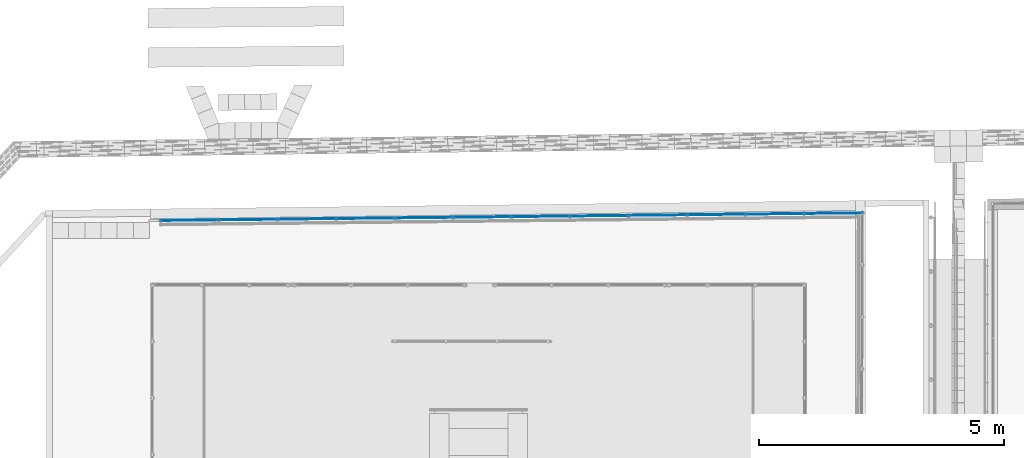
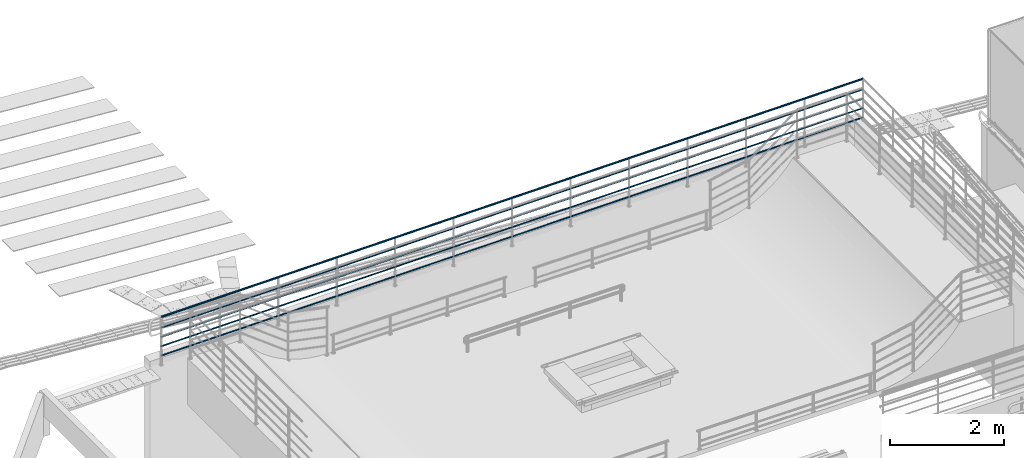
# One storey, part 50 of 237: 6 building element parts, 1 element without a shape of its own.
"""IFC2X3 building model written with IfcOpenShell, lengths in millimetres."""

from ifc_helpers import new_model, entity, si_unit, converted_unit, derived_unit, money_unit, direction, frame, origin_with_axes, place, context, subcontext, project, spatial, faceted_brep, material, type_object, element, aggregate, save


model = new_model("IFC2X3")

# Units and contexts
model_context = context("Model", 3, precision=0.01, world=origin_with_axes(), true_north=direction((0.0, 1.0)))
body_context = subcontext(model_context, "Body", "Model", "MODEL_VIEW")
ifc_project = project(units=[si_unit("LENGTHUNIT", "METRE", prefix="MILLI"), si_unit("AREAUNIT", "SQUARE_METRE"), si_unit("VOLUMEUNIT", "CUBIC_METRE"), converted_unit("PLANEANGLEUNIT", "DEGREE", entity("IfcPlaneAngleMeasure", 0.0174532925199), si_unit("PLANEANGLEUNIT", "RADIAN"), dimensions=[0, 0, 0, 0, 0, 0, 0]), money_unit("USD"), converted_unit("TIMEUNIT", "Year", entity("IfcTimeMeasure", 31556926.0), si_unit("TIMEUNIT", "SECOND"), dimensions=[0, 0, 1, 0, 0, 0, 0]), si_unit("MASSUNIT", "GRAM", prefix="KILO"), si_unit("THERMODYNAMICTEMPERATUREUNIT", "DEGREE_CELSIUS"), si_unit("LUMINOUSINTENSITYUNIT", "LUMEN"), si_unit("ENERGYUNIT", "JOULE", prefix="MEGA"), derived_unit("THERMALCONDUCTANCEUNIT", [(si_unit("POWERUNIT", "WATT"), 1), (si_unit("LENGTHUNIT", "METRE"), -1), (si_unit("THERMODYNAMICTEMPERATUREUNIT", "KELVIN"), -1)]), derived_unit("SPECIFICHEATCAPACITYUNIT", [(si_unit("ENERGYUNIT", "JOULE"), 1), (si_unit("MASSUNIT", "GRAM", prefix="KILO"), -1), (si_unit("THERMODYNAMICTEMPERATUREUNIT", "KELVIN"), -1)]), derived_unit("MASSDENSITYUNIT", [(si_unit("MASSUNIT", "GRAM", prefix="KILO"), 1), (si_unit("VOLUMEUNIT", "CUBIC_METRE"), -1)])], contexts=[model_context])

# Site, building, storey
site_placement = place(None, origin_with_axes())
site = spatial("IfcSite", under=ifc_project, at=site_placement, Name="Local", CompositionType="ELEMENT")
building_placement = place(site_placement, origin_with_axes())
building = spatial("IfcBuilding", under=site, at=building_placement, Name="Construção", CompositionType="ELEMENT")
storey_placement = place(building_placement, origin_with_axes())
storey = spatial("IfcBuildingStorey", under=building, at=storey_placement, Name="Pavimento Térreo", CompositionType="ELEMENT", Elevation=0.0)

# Railing, building element parts
railing_type = type_object("IfcRailingType", Name="Tipo de Guarda-Corpo", PredefinedType="NOTDEFINED")
railing_placement = place(storey_placement, frame((70326.6870103, 28675.2458388, -1357.10819655), z_axis=(0.0, 0.0, 1.0), x_axis=(1.0, 0.0, 0.0)))
railing = element("IfcRailing", 1, at=railing_placement, inside=storey, type_object=railing_type, Name="Guarda-Corpo - 004", PredefinedType="NOTDEFINED")
ifc_material = material(Name="Aço - Inoxidável")
building_element_part_1_placement = place(railing_placement, origin_with_axes())
building_element_part_1 = element("IfcBuildingElementPart", 2, at=building_element_part_1_placement, material=ifc_material, Name="Aço - Inoxidável", context=body_context, shape_type="Brep", body=[
    faceted_brep([(-4741.9388461, 6631.78341977, 1030.0), (-4741.63408005, 6632.09059752, 1033.47296355), (-19057.310701, 6476.3836073, 1033.47296355), (-19057.3073961, 6476.07978034, 1030.0), (-4741.63408005, 6632.09059752, 1026.52703645), (-4740.72904204, 6633.00279734, 1023.15959713), (-4739.25123121, 6634.4923025, 1020.0), (-4737.24555008, 6636.51385514, 1017.14424781), (-4734.77294027, 6639.0060314, 1014.67911114), (-4731.90853076, 6641.89310776, 1012.67949192), (-4728.7393552, 6645.08736188, 1011.20614758), (-4725.36170738, 6648.49173796, 1010.30384494), (-4721.87821542, 6652.00279575, 1010.0), (-4718.39472346, 6655.51385355, 1010.30384494), (-4715.01707564, 6658.91822963, 1011.20614758), (-4711.84790008, 6662.11248375, 1012.67949192), (-4708.98349058, 6664.99956011, 1014.67911114), (-4706.51088076, 6667.49173637, 1017.14424781), (-4704.50519964, 6669.51328901, 1020.0), (-4703.0273888, 6671.00279417, 1023.15959713), (-4702.1223508, 6671.91499399, 1026.52703645), (-4701.81758474, 6672.22217174, 1030.0), (-4702.1223508, 6671.91499399, 1033.47296355), (-4703.0273888, 6671.00279417, 1036.84040287), (-4704.50519964, 6669.51328901, 1040.0), (-4706.51088076, 6667.49173637, 1042.85575219), (-4708.98349058, 6664.99956011, 1045.32088886), (-4711.84790008, 6662.11248375, 1047.32050808), (-4715.01707564, 6658.91822963, 1048.79385242), (-4718.39472346, 6655.51385355, 1049.69615506), (-4721.87821542, 6652.00279575, 1050.0), (-4725.36170738, 6648.49173796, 1049.69615506), (-4728.7393552, 6645.08736188, 1048.79385242), (-4731.90853076, 6641.89310776, 1047.32050808), (-4734.77294027, 6639.0060314, 1045.32088886), (-4737.24555008, 6636.51385514, 1042.85575219), (-4739.25123121, 6634.4923025, 1040.0), (-4740.72904204, 6633.00279734, 1036.84040287), (-19057.3205153, 6477.28585657, 1036.84040287), (-19057.3365408, 6478.75911376, 1040.0), (-19057.3582907, 6480.75861468, 1042.85575219), (-19057.3851039, 6483.22360552, 1045.32088886), (-19057.4161658, 6486.07918878, 1047.32050808), (-19057.4505327, 6489.238599, 1048.79385242), (-19057.4871603, 6492.60583911, 1049.69615506), (-19057.5249356, 6496.07859722, 1050.0), (-19057.562711, 6499.55135532, 1049.69615506), (-19057.5993386, 6502.91859543, 1048.79385242), (-19057.6337054, 6506.07800566, 1047.32050808), (-19057.6647674, 6508.93358892, 1045.32088886), (-19057.6915806, 6511.39857976, 1042.85575219), (-19057.7133304, 6513.39808068, 1040.0), (-19057.729356, 6514.87133786, 1036.84040287), (-19057.7391703, 6515.77358713, 1033.47296355), (-19057.7424752, 6516.0774141, 1030.0), (-19057.7391703, 6515.77358713, 1026.52703645), (-19057.729356, 6514.87133786, 1023.15959713), (-19057.7133304, 6513.39808068, 1020.0), (-19057.6915806, 6511.39857976, 1017.14424781), (-19057.6647674, 6508.93358892, 1014.67911114), (-19057.6337054, 6506.07800566, 1012.67949192), (-19057.5993386, 6502.91859543, 1011.20614758), (-19057.562711, 6499.55135532, 1010.30384494), (-19057.5249356, 6496.07859722, 1010.0), (-19057.4871603, 6492.60583911, 1010.30384494), (-19057.4505327, 6489.238599, 1011.20614758), (-19057.4161658, 6486.07918878, 1012.67949192), (-19057.3851039, 6483.22360552, 1014.67911114), (-19057.3582907, 6480.75861468, 1017.14424781), (-19057.3365408, 6478.75911376, 1020.0), (-19057.3205153, 6477.28585657, 1023.15959713), (-19057.310701, 6476.3836073, 1026.52703645)], [[[0, 1, 2, 3]], [[0, 4, 5, 6, 7, 8, 9, 10, 11, 12, 13, 14, 15, 16, 17, 18, 19, 20, 21, 22, 23, 24, 25, 26, 27, 28, 29, 30, 31, 32, 33, 34, 35, 36, 37, 1]], [[1, 37, 38, 2]], [[3, 2, 38, 39, 40, 41, 42, 43, 44, 45, 46, 47, 48, 49, 50, 51, 52, 53, 54, 55, 56, 57, 58, 59, 60, 61, 62, 63, 64, 65, 66, 67, 68, 69, 70, 71]], [[4, 0, 3, 71]], [[5, 4, 71, 70]], [[6, 5, 70, 69]], [[7, 6, 69, 68]], [[8, 7, 68, 67]], [[9, 8, 67, 66]], [[10, 9, 66, 65]], [[11, 10, 65, 64]], [[12, 11, 64, 63]], [[13, 12, 63, 62]], [[14, 13, 62, 61]], [[15, 14, 61, 60]], [[16, 15, 60, 59]], [[17, 16, 59, 58]], [[18, 17, 58, 57]], [[19, 18, 57, 56]], [[20, 19, 56, 55]], [[21, 20, 55, 54]], [[22, 21, 54, 53]], [[23, 22, 53, 52]], [[24, 23, 52, 51]], [[25, 24, 51, 50]], [[26, 25, 50, 49]], [[27, 26, 49, 48]], [[28, 27, 48, 47]], [[29, 28, 47, 46]], [[30, 29, 46, 45]], [[31, 30, 45, 44]], [[32, 31, 44, 43]], [[33, 32, 43, 42]], [[34, 33, 42, 41]], [[35, 34, 41, 40]], [[36, 35, 40, 39]], [[37, 36, 39, 38]]]),
])
building_element_part_2_placement = place(railing_placement, origin_with_axes())
building_element_part_2 = element("IfcBuildingElementPart", 3, at=building_element_part_2_placement, material=ifc_material, Name="Aço - Inoxidável", context=body_context, shape_type="Brep", body=[
    faceted_brep([(-4731.90853076, 6641.89310776, 200.0), (-4731.75614774, 6642.04669664, 201.736481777), (-19057.4178183, 6486.23110226, 201.736481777), (-19057.4161658, 6486.07918878, 200.0), (-4731.75614774, 6642.04669664, 198.263518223), (-4731.30362873, 6642.50279655, 196.579798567), (-4730.56472332, 6643.24754913, 195.0), (-4729.56188275, 6644.25832545, 193.572123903), (-4728.32557785, 6645.50441357, 192.339555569), (-4726.89337309, 6646.94795176, 191.339745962), (-4725.30878531, 6648.54507882, 190.603073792), (-4723.6199614, 6650.24726686, 190.15192247), (-4721.87821542, 6652.00279575, 190.0), (-4720.13646944, 6653.75832465, 190.15192247), (-4718.44764553, 6655.46051269, 190.603073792), (-4716.86305775, 6657.05763975, 191.339745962), (-4715.430853, 6658.50117793, 192.339555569), (-4714.19454809, 6659.74726606, 193.572123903), (-4713.19170753, 6660.75804238, 195.0), (-4712.45280211, 6661.50279496, 196.579798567), (-4712.00028311, 6661.95889487, 198.263518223), (-4711.84790008, 6662.11248375, 200.0), (-4712.00028311, 6661.95889487, 201.736481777), (-4712.45280211, 6661.50279496, 203.420201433), (-4713.19170753, 6660.75804238, 205.0), (-4714.19454809, 6659.74726606, 206.427876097), (-4715.430853, 6658.50117793, 207.660444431), (-4716.86305775, 6657.05763975, 208.660254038), (-4718.44764553, 6655.46051269, 209.396926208), (-4720.13646944, 6653.75832465, 209.84807753), (-4721.87821542, 6652.00279575, 210.0), (-4723.6199614, 6650.24726686, 209.84807753), (-4725.30878531, 6648.54507882, 209.396926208), (-4726.89337309, 6646.94795176, 208.660254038), (-4728.32557785, 6645.50441357, 207.660444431), (-4729.56188275, 6644.25832545, 206.427876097), (-4730.56472332, 6643.24754913, 205.0), (-4731.30362873, 6642.50279655, 203.420201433), (-19057.4227255, 6486.6822269, 203.420201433), (-19057.4307382, 6487.41885549, 205.0), (-19057.4416131, 6488.41860595, 206.427876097), (-19057.4550198, 6489.65110137, 207.660444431), (-19057.4705507, 6491.078893, 208.660254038), (-19057.4877342, 6492.65859811, 209.396926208), (-19057.506048, 6494.34221816, 209.84807753), (-19057.5249356, 6496.07859722, 210.0), (-19057.5438233, 6497.81497627, 209.84807753), (-19057.5621371, 6499.49859633, 209.396926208), (-19057.5793205, 6501.07830144, 208.660254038), (-19057.5948515, 6502.50609307, 207.660444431), (-19057.6082581, 6503.73858849, 206.427876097), (-19057.619133, 6504.73833895, 205.0), (-19057.6271458, 6505.47496754, 203.420201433), (-19057.632053, 6505.92609217, 201.736481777), (-19057.6337054, 6506.07800566, 200.0), (-19057.632053, 6505.92609217, 198.263518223), (-19057.6271458, 6505.47496754, 196.579798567), (-19057.619133, 6504.73833895, 195.0), (-19057.6082581, 6503.73858849, 193.572123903), (-19057.5948515, 6502.50609307, 192.339555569), (-19057.5793205, 6501.07830144, 191.339745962), (-19057.5621371, 6499.49859633, 190.603073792), (-19057.5438233, 6497.81497627, 190.15192247), (-19057.5249356, 6496.07859722, 190.0), (-19057.506048, 6494.34221816, 190.15192247), (-19057.4877342, 6492.65859811, 190.603073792), (-19057.4705507, 6491.078893, 191.339745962), (-19057.4550198, 6489.65110137, 192.339555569), (-19057.4416131, 6488.41860595, 193.572123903), (-19057.4307382, 6487.41885549, 195.0), (-19057.4227255, 6486.6822269, 196.579798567), (-19057.4178183, 6486.23110226, 198.263518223)], [[[0, 1, 2, 3]], [[0, 4, 5, 6, 7, 8, 9, 10, 11, 12, 13, 14, 15, 16, 17, 18, 19, 20, 21, 22, 23, 24, 25, 26, 27, 28, 29, 30, 31, 32, 33, 34, 35, 36, 37, 1]], [[1, 37, 38, 2]], [[3, 2, 38, 39, 40, 41, 42, 43, 44, 45, 46, 47, 48, 49, 50, 51, 52, 53, 54, 55, 56, 57, 58, 59, 60, 61, 62, 63, 64, 65, 66, 67, 68, 69, 70, 71]], [[4, 0, 3, 71]], [[5, 4, 71, 70]], [[6, 5, 70, 69]], [[7, 6, 69, 68]], [[8, 7, 68, 67]], [[9, 8, 67, 66]], [[10, 9, 66, 65]], [[11, 10, 65, 64]], [[12, 11, 64, 63]], [[13, 12, 63, 62]], [[14, 13, 62, 61]], [[15, 14, 61, 60]], [[16, 15, 60, 59]], [[17, 16, 59, 58]], [[18, 17, 58, 57]], [[19, 18, 57, 56]], [[20, 19, 56, 55]], [[21, 20, 55, 54]], [[22, 21, 54, 53]], [[23, 22, 53, 52]], [[24, 23, 52, 51]], [[25, 24, 51, 50]], [[26, 25, 50, 49]], [[27, 26, 49, 48]], [[28, 27, 48, 47]], [[29, 28, 47, 46]], [[30, 29, 46, 45]], [[31, 30, 45, 44]], [[32, 31, 44, 43]], [[33, 32, 43, 42]], [[34, 33, 42, 41]], [[35, 34, 41, 40]], [[36, 35, 40, 39]], [[37, 36, 39, 38]]]),
])
building_element_part_3_placement = place(railing_placement, origin_with_axes())
building_element_part_3 = element("IfcBuildingElementPart", 4, at=building_element_part_3_placement, material=ifc_material, Name="Aço - Inoxidável", context=body_context, shape_type="Brep", body=[
    faceted_brep([(-4731.90853076, 6641.89310776, 400.0), (-4731.75614774, 6642.04669664, 401.736481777), (-19057.4178183, 6486.23110226, 401.736481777), (-19057.4161658, 6486.07918878, 400.0), (-4731.75614774, 6642.04669664, 398.263518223), (-4731.30362873, 6642.50279655, 396.579798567), (-4730.56472332, 6643.24754913, 395.0), (-4729.56188275, 6644.25832545, 393.572123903), (-4728.32557785, 6645.50441357, 392.339555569), (-4726.89337309, 6646.94795176, 391.339745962), (-4725.30878531, 6648.54507882, 390.603073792), (-4723.6199614, 6650.24726686, 390.15192247), (-4721.87821542, 6652.00279575, 390.0), (-4720.13646944, 6653.75832465, 390.15192247), (-4718.44764553, 6655.46051269, 390.603073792), (-4716.86305775, 6657.05763975, 391.339745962), (-4715.430853, 6658.50117793, 392.339555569), (-4714.19454809, 6659.74726606, 393.572123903), (-4713.19170753, 6660.75804238, 395.0), (-4712.45280211, 6661.50279496, 396.579798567), (-4712.00028311, 6661.95889487, 398.263518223), (-4711.84790008, 6662.11248375, 400.0), (-4712.00028311, 6661.95889487, 401.736481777), (-4712.45280211, 6661.50279496, 403.420201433), (-4713.19170753, 6660.75804238, 405.0), (-4714.19454809, 6659.74726606, 406.427876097), (-4715.430853, 6658.50117793, 407.660444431), (-4716.86305775, 6657.05763975, 408.660254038), (-4718.44764553, 6655.46051269, 409.396926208), (-4720.13646944, 6653.75832465, 409.84807753), (-4721.87821542, 6652.00279575, 410.0), (-4723.6199614, 6650.24726686, 409.84807753), (-4725.30878531, 6648.54507882, 409.396926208), (-4726.89337309, 6646.94795176, 408.660254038), (-4728.32557785, 6645.50441357, 407.660444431), (-4729.56188275, 6644.25832545, 406.427876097), (-4730.56472332, 6643.24754913, 405.0), (-4731.30362873, 6642.50279655, 403.420201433), (-19057.4227255, 6486.6822269, 403.420201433), (-19057.4307382, 6487.41885549, 405.0), (-19057.4416131, 6488.41860595, 406.427876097), (-19057.4550198, 6489.65110137, 407.660444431), (-19057.4705507, 6491.078893, 408.660254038), (-19057.4877342, 6492.65859811, 409.396926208), (-19057.506048, 6494.34221816, 409.84807753), (-19057.5249356, 6496.07859722, 410.0), (-19057.5438233, 6497.81497627, 409.84807753), (-19057.5621371, 6499.49859633, 409.396926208), (-19057.5793205, 6501.07830144, 408.660254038), (-19057.5948515, 6502.50609307, 407.660444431), (-19057.6082581, 6503.73858849, 406.427876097), (-19057.619133, 6504.73833895, 405.0), (-19057.6271458, 6505.47496754, 403.420201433), (-19057.632053, 6505.92609217, 401.736481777), (-19057.6337054, 6506.07800566, 400.0), (-19057.632053, 6505.92609217, 398.263518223), (-19057.6271458, 6505.47496754, 396.579798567), (-19057.619133, 6504.73833895, 395.0), (-19057.6082581, 6503.73858849, 393.572123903), (-19057.5948515, 6502.50609307, 392.339555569), (-19057.5793205, 6501.07830144, 391.339745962), (-19057.5621371, 6499.49859633, 390.603073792), (-19057.5438233, 6497.81497627, 390.15192247), (-19057.5249356, 6496.07859722, 390.0), (-19057.506048, 6494.34221816, 390.15192247), (-19057.4877342, 6492.65859811, 390.603073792), (-19057.4705507, 6491.078893, 391.339745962), (-19057.4550198, 6489.65110137, 392.339555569), (-19057.4416131, 6488.41860595, 393.572123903), (-19057.4307382, 6487.41885549, 395.0), (-19057.4227255, 6486.6822269, 396.579798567), (-19057.4178183, 6486.23110226, 398.263518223)], [[[0, 1, 2, 3]], [[0, 4, 5, 6, 7, 8, 9, 10, 11, 12, 13, 14, 15, 16, 17, 18, 19, 20, 21, 22, 23, 24, 25, 26, 27, 28, 29, 30, 31, 32, 33, 34, 35, 36, 37, 1]], [[1, 37, 38, 2]], [[3, 2, 38, 39, 40, 41, 42, 43, 44, 45, 46, 47, 48, 49, 50, 51, 52, 53, 54, 55, 56, 57, 58, 59, 60, 61, 62, 63, 64, 65, 66, 67, 68, 69, 70, 71]], [[4, 0, 3, 71]], [[5, 4, 71, 70]], [[6, 5, 70, 69]], [[7, 6, 69, 68]], [[8, 7, 68, 67]], [[9, 8, 67, 66]], [[10, 9, 66, 65]], [[11, 10, 65, 64]], [[12, 11, 64, 63]], [[13, 12, 63, 62]], [[14, 13, 62, 61]], [[15, 14, 61, 60]], [[16, 15, 60, 59]], [[17, 16, 59, 58]], [[18, 17, 58, 57]], [[19, 18, 57, 56]], [[20, 19, 56, 55]], [[21, 20, 55, 54]], [[22, 21, 54, 53]], [[23, 22, 53, 52]], [[24, 23, 52, 51]], [[25, 24, 51, 50]], [[26, 25, 50, 49]], [[27, 26, 49, 48]], [[28, 27, 48, 47]], [[29, 28, 47, 46]], [[30, 29, 46, 45]], [[31, 30, 45, 44]], [[32, 31, 44, 43]], [[33, 32, 43, 42]], [[34, 33, 42, 41]], [[35, 34, 41, 40]], [[36, 35, 40, 39]], [[37, 36, 39, 38]]]),
])
building_element_part_4_placement = place(railing_placement, origin_with_axes())
building_element_part_4 = element("IfcBuildingElementPart", 5, at=building_element_part_4_placement, material=ifc_material, Name="Aço - Inoxidável", context=body_context, shape_type="Brep", body=[
    faceted_brep([(-4731.90853076, 6641.89310776, 400.0), (-4731.75614774, 6642.04669664, 401.736481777), (-19057.4178183, 6486.23110226, 401.736481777), (-19057.4161658, 6486.07918878, 400.0), (-4731.75614774, 6642.04669664, 398.263518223), (-4731.30362873, 6642.50279655, 396.579798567), (-4730.56472332, 6643.24754913, 395.0), (-4729.56188275, 6644.25832545, 393.572123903), (-4728.32557785, 6645.50441357, 392.339555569), (-4726.89337309, 6646.94795176, 391.339745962), (-4725.30878531, 6648.54507882, 390.603073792), (-4723.6199614, 6650.24726686, 390.15192247), (-4721.87821542, 6652.00279575, 390.0), (-4720.13646944, 6653.75832465, 390.15192247), (-4718.44764553, 6655.46051269, 390.603073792), (-4716.86305775, 6657.05763975, 391.339745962), (-4715.430853, 6658.50117793, 392.339555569), (-4714.19454809, 6659.74726606, 393.572123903), (-4713.19170753, 6660.75804238, 395.0), (-4712.45280211, 6661.50279496, 396.579798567), (-4712.00028311, 6661.95889487, 398.263518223), (-4711.84790008, 6662.11248375, 400.0), (-4712.00028311, 6661.95889487, 401.736481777), (-4712.45280211, 6661.50279496, 403.420201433), (-4713.19170753, 6660.75804238, 405.0), (-4714.19454809, 6659.74726606, 406.427876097), (-4715.430853, 6658.50117793, 407.660444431), (-4716.86305775, 6657.05763975, 408.660254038), (-4718.44764553, 6655.46051269, 409.396926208), (-4720.13646944, 6653.75832465, 409.84807753), (-4721.87821542, 6652.00279575, 410.0), (-4723.6199614, 6650.24726686, 409.84807753), (-4725.30878531, 6648.54507882, 409.396926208), (-4726.89337309, 6646.94795176, 408.660254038), (-4728.32557785, 6645.50441357, 407.660444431), (-4729.56188275, 6644.25832545, 406.427876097), (-4730.56472332, 6643.24754913, 405.0), (-4731.30362873, 6642.50279655, 403.420201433), (-19057.4227255, 6486.6822269, 403.420201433), (-19057.4307382, 6487.41885549, 405.0), (-19057.4416131, 6488.41860595, 406.427876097), (-19057.4550198, 6489.65110137, 407.660444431), (-19057.4705507, 6491.078893, 408.660254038), (-19057.4877342, 6492.65859811, 409.396926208), (-19057.506048, 6494.34221816, 409.84807753), (-19057.5249356, 6496.07859722, 410.0), (-19057.5438233, 6497.81497627, 409.84807753), (-19057.5621371, 6499.49859633, 409.396926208), (-19057.5793205, 6501.07830144, 408.660254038), (-19057.5948515, 6502.50609307, 407.660444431), (-19057.6082581, 6503.73858849, 406.427876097), (-19057.619133, 6504.73833895, 405.0), (-19057.6271458, 6505.47496754, 403.420201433), (-19057.632053, 6505.92609217, 401.736481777), (-19057.6337054, 6506.07800566, 400.0), (-19057.632053, 6505.92609217, 398.263518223), (-19057.6271458, 6505.47496754, 396.579798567), (-19057.619133, 6504.73833895, 395.0), (-19057.6082581, 6503.73858849, 393.572123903), (-19057.5948515, 6502.50609307, 392.339555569), (-19057.5793205, 6501.07830144, 391.339745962), (-19057.5621371, 6499.49859633, 390.603073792), (-19057.5438233, 6497.81497627, 390.15192247), (-19057.5249356, 6496.07859722, 390.0), (-19057.506048, 6494.34221816, 390.15192247), (-19057.4877342, 6492.65859811, 390.603073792), (-19057.4705507, 6491.078893, 391.339745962), (-19057.4550198, 6489.65110137, 392.339555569), (-19057.4416131, 6488.41860595, 393.572123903), (-19057.4307382, 6487.41885549, 395.0), (-19057.4227255, 6486.6822269, 396.579798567), (-19057.4178183, 6486.23110226, 398.263518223)], [[[0, 1, 2, 3]], [[0, 4, 5, 6, 7, 8, 9, 10, 11, 12, 13, 14, 15, 16, 17, 18, 19, 20, 21, 22, 23, 24, 25, 26, 27, 28, 29, 30, 31, 32, 33, 34, 35, 36, 37, 1]], [[1, 37, 38, 2]], [[3, 2, 38, 39, 40, 41, 42, 43, 44, 45, 46, 47, 48, 49, 50, 51, 52, 53, 54, 55, 56, 57, 58, 59, 60, 61, 62, 63, 64, 65, 66, 67, 68, 69, 70, 71]], [[4, 0, 3, 71]], [[5, 4, 71, 70]], [[6, 5, 70, 69]], [[7, 6, 69, 68]], [[8, 7, 68, 67]], [[9, 8, 67, 66]], [[10, 9, 66, 65]], [[11, 10, 65, 64]], [[12, 11, 64, 63]], [[13, 12, 63, 62]], [[14, 13, 62, 61]], [[15, 14, 61, 60]], [[16, 15, 60, 59]], [[17, 16, 59, 58]], [[18, 17, 58, 57]], [[19, 18, 57, 56]], [[20, 19, 56, 55]], [[21, 20, 55, 54]], [[22, 21, 54, 53]], [[23, 22, 53, 52]], [[24, 23, 52, 51]], [[25, 24, 51, 50]], [[26, 25, 50, 49]], [[27, 26, 49, 48]], [[28, 27, 48, 47]], [[29, 28, 47, 46]], [[30, 29, 46, 45]], [[31, 30, 45, 44]], [[32, 31, 44, 43]], [[33, 32, 43, 42]], [[34, 33, 42, 41]], [[35, 34, 41, 40]], [[36, 35, 40, 39]], [[37, 36, 39, 38]]]),
])
building_element_part_5_placement = place(railing_placement, origin_with_axes())
building_element_part_5 = element("IfcBuildingElementPart", 6, at=building_element_part_5_placement, material=ifc_material, Name="Aço - Inoxidável", context=body_context, shape_type="Brep", body=[
    faceted_brep([(-4731.90853076, 6641.89310776, 600.0), (-4731.75614774, 6642.04669664, 601.736481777), (-19057.4178183, 6486.23110226, 601.736481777), (-19057.4161658, 6486.07918878, 600.0), (-4731.75614774, 6642.04669664, 598.263518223), (-4731.30362873, 6642.50279655, 596.579798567), (-4730.56472332, 6643.24754913, 595.0), (-4729.56188275, 6644.25832545, 593.572123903), (-4728.32557785, 6645.50441357, 592.339555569), (-4726.89337309, 6646.94795176, 591.339745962), (-4725.30878531, 6648.54507882, 590.603073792), (-4723.6199614, 6650.24726686, 590.15192247), (-4721.87821542, 6652.00279575, 590.0), (-4720.13646944, 6653.75832465, 590.15192247), (-4718.44764553, 6655.46051269, 590.603073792), (-4716.86305775, 6657.05763975, 591.339745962), (-4715.430853, 6658.50117793, 592.339555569), (-4714.19454809, 6659.74726606, 593.572123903), (-4713.19170753, 6660.75804238, 595.0), (-4712.45280211, 6661.50279496, 596.579798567), (-4712.00028311, 6661.95889487, 598.263518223), (-4711.84790008, 6662.11248375, 600.0), (-4712.00028311, 6661.95889487, 601.736481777), (-4712.45280211, 6661.50279496, 603.420201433), (-4713.19170753, 6660.75804238, 605.0), (-4714.19454809, 6659.74726606, 606.427876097), (-4715.430853, 6658.50117793, 607.660444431), (-4716.86305775, 6657.05763975, 608.660254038), (-4718.44764553, 6655.46051269, 609.396926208), (-4720.13646944, 6653.75832465, 609.84807753), (-4721.87821542, 6652.00279575, 610.0), (-4723.6199614, 6650.24726686, 609.84807753), (-4725.30878531, 6648.54507882, 609.396926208), (-4726.89337309, 6646.94795176, 608.660254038), (-4728.32557785, 6645.50441357, 607.660444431), (-4729.56188275, 6644.25832545, 606.427876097), (-4730.56472332, 6643.24754913, 605.0), (-4731.30362873, 6642.50279655, 603.420201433), (-19057.4227255, 6486.6822269, 603.420201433), (-19057.4307382, 6487.41885549, 605.0), (-19057.4416131, 6488.41860595, 606.427876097), (-19057.4550198, 6489.65110137, 607.660444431), (-19057.4705507, 6491.078893, 608.660254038), (-19057.4877342, 6492.65859811, 609.396926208), (-19057.506048, 6494.34221816, 609.84807753), (-19057.5249356, 6496.07859722, 610.0), (-19057.5438233, 6497.81497627, 609.84807753), (-19057.5621371, 6499.49859633, 609.396926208), (-19057.5793205, 6501.07830144, 608.660254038), (-19057.5948515, 6502.50609307, 607.660444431), (-19057.6082581, 6503.73858849, 606.427876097), (-19057.619133, 6504.73833895, 605.0), (-19057.6271458, 6505.47496754, 603.420201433), (-19057.632053, 6505.92609217, 601.736481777), (-19057.6337054, 6506.07800566, 600.0), (-19057.632053, 6505.92609217, 598.263518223), (-19057.6271458, 6505.47496754, 596.579798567), (-19057.619133, 6504.73833895, 595.0), (-19057.6082581, 6503.73858849, 593.572123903), (-19057.5948515, 6502.50609307, 592.339555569), (-19057.5793205, 6501.07830144, 591.339745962), (-19057.5621371, 6499.49859633, 590.603073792), (-19057.5438233, 6497.81497627, 590.15192247), (-19057.5249356, 6496.07859722, 590.0), (-19057.506048, 6494.34221816, 590.15192247), (-19057.4877342, 6492.65859811, 590.603073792), (-19057.4705507, 6491.078893, 591.339745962), (-19057.4550198, 6489.65110137, 592.339555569), (-19057.4416131, 6488.41860595, 593.572123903), (-19057.4307382, 6487.41885549, 595.0), (-19057.4227255, 6486.6822269, 596.579798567), (-19057.4178183, 6486.23110226, 598.263518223)], [[[0, 1, 2, 3]], [[0, 4, 5, 6, 7, 8, 9, 10, 11, 12, 13, 14, 15, 16, 17, 18, 19, 20, 21, 22, 23, 24, 25, 26, 27, 28, 29, 30, 31, 32, 33, 34, 35, 36, 37, 1]], [[1, 37, 38, 2]], [[3, 2, 38, 39, 40, 41, 42, 43, 44, 45, 46, 47, 48, 49, 50, 51, 52, 53, 54, 55, 56, 57, 58, 59, 60, 61, 62, 63, 64, 65, 66, 67, 68, 69, 70, 71]], [[4, 0, 3, 71]], [[5, 4, 71, 70]], [[6, 5, 70, 69]], [[7, 6, 69, 68]], [[8, 7, 68, 67]], [[9, 8, 67, 66]], [[10, 9, 66, 65]], [[11, 10, 65, 64]], [[12, 11, 64, 63]], [[13, 12, 63, 62]], [[14, 13, 62, 61]], [[15, 14, 61, 60]], [[16, 15, 60, 59]], [[17, 16, 59, 58]], [[18, 17, 58, 57]], [[19, 18, 57, 56]], [[20, 19, 56, 55]], [[21, 20, 55, 54]], [[22, 21, 54, 53]], [[23, 22, 53, 52]], [[24, 23, 52, 51]], [[25, 24, 51, 50]], [[26, 25, 50, 49]], [[27, 26, 49, 48]], [[28, 27, 48, 47]], [[29, 28, 47, 46]], [[30, 29, 46, 45]], [[31, 30, 45, 44]], [[32, 31, 44, 43]], [[33, 32, 43, 42]], [[34, 33, 42, 41]], [[35, 34, 41, 40]], [[36, 35, 40, 39]], [[37, 36, 39, 38]]]),
])
building_element_part_6_placement = place(railing_placement, origin_with_axes())
building_element_part_6 = element("IfcBuildingElementPart", 7, at=building_element_part_6_placement, material=ifc_material, Name="Aço - Inoxidável", context=body_context, shape_type="Brep", body=[
    faceted_brep([(-4731.90853076, 6641.89310776, 800.0), (-4731.75614774, 6642.04669664, 801.736481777), (-19057.4178183, 6486.23110226, 801.736481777), (-19057.4161658, 6486.07918878, 800.0), (-4731.75614774, 6642.04669664, 798.263518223), (-4731.30362873, 6642.50279655, 796.579798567), (-4730.56472332, 6643.24754913, 795.0), (-4729.56188275, 6644.25832545, 793.572123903), (-4728.32557785, 6645.50441357, 792.339555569), (-4726.89337309, 6646.94795176, 791.339745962), (-4725.30878531, 6648.54507882, 790.603073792), (-4723.6199614, 6650.24726686, 790.15192247), (-4721.87821542, 6652.00279575, 790.0), (-4720.13646944, 6653.75832465, 790.15192247), (-4718.44764553, 6655.46051269, 790.603073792), (-4716.86305775, 6657.05763975, 791.339745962), (-4715.430853, 6658.50117793, 792.339555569), (-4714.19454809, 6659.74726606, 793.572123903), (-4713.19170753, 6660.75804238, 795.0), (-4712.45280211, 6661.50279496, 796.579798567), (-4712.00028311, 6661.95889487, 798.263518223), (-4711.84790008, 6662.11248375, 800.0), (-4712.00028311, 6661.95889487, 801.736481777), (-4712.45280211, 6661.50279496, 803.420201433), (-4713.19170753, 6660.75804238, 805.0), (-4714.19454809, 6659.74726606, 806.427876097), (-4715.430853, 6658.50117793, 807.660444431), (-4716.86305775, 6657.05763975, 808.660254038), (-4718.44764553, 6655.46051269, 809.396926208), (-4720.13646944, 6653.75832465, 809.84807753), (-4721.87821542, 6652.00279575, 810.0), (-4723.6199614, 6650.24726686, 809.84807753), (-4725.30878531, 6648.54507882, 809.396926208), (-4726.89337309, 6646.94795176, 808.660254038), (-4728.32557785, 6645.50441357, 807.660444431), (-4729.56188275, 6644.25832545, 806.427876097), (-4730.56472332, 6643.24754913, 805.0), (-4731.30362873, 6642.50279655, 803.420201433), (-19057.4227255, 6486.6822269, 803.420201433), (-19057.4307382, 6487.41885549, 805.0), (-19057.4416131, 6488.41860595, 806.427876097), (-19057.4550198, 6489.65110137, 807.660444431), (-19057.4705507, 6491.078893, 808.660254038), (-19057.4877342, 6492.65859811, 809.396926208), (-19057.506048, 6494.34221816, 809.84807753), (-19057.5249356, 6496.07859722, 810.0), (-19057.5438233, 6497.81497627, 809.84807753), (-19057.5621371, 6499.49859633, 809.396926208), (-19057.5793205, 6501.07830144, 808.660254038), (-19057.5948515, 6502.50609307, 807.660444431), (-19057.6082581, 6503.73858849, 806.427876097), (-19057.619133, 6504.73833895, 805.0), (-19057.6271458, 6505.47496754, 803.420201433), (-19057.632053, 6505.92609217, 801.736481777), (-19057.6337054, 6506.07800566, 800.0), (-19057.632053, 6505.92609217, 798.263518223), (-19057.6271458, 6505.47496754, 796.579798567), (-19057.619133, 6504.73833895, 795.0), (-19057.6082581, 6503.73858849, 793.572123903), (-19057.5948515, 6502.50609307, 792.339555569), (-19057.5793205, 6501.07830144, 791.339745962), (-19057.5621371, 6499.49859633, 790.603073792), (-19057.5438233, 6497.81497627, 790.15192247), (-19057.5249356, 6496.07859722, 790.0), (-19057.506048, 6494.34221816, 790.15192247), (-19057.4877342, 6492.65859811, 790.603073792), (-19057.4705507, 6491.078893, 791.339745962), (-19057.4550198, 6489.65110137, 792.339555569), (-19057.4416131, 6488.41860595, 793.572123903), (-19057.4307382, 6487.41885549, 795.0), (-19057.4227255, 6486.6822269, 796.579798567), (-19057.4178183, 6486.23110226, 798.263518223)], [[[0, 1, 2, 3]], [[0, 4, 5, 6, 7, 8, 9, 10, 11, 12, 13, 14, 15, 16, 17, 18, 19, 20, 21, 22, 23, 24, 25, 26, 27, 28, 29, 30, 31, 32, 33, 34, 35, 36, 37, 1]], [[1, 37, 38, 2]], [[3, 2, 38, 39, 40, 41, 42, 43, 44, 45, 46, 47, 48, 49, 50, 51, 52, 53, 54, 55, 56, 57, 58, 59, 60, 61, 62, 63, 64, 65, 66, 67, 68, 69, 70, 71]], [[4, 0, 3, 71]], [[5, 4, 71, 70]], [[6, 5, 70, 69]], [[7, 6, 69, 68]], [[8, 7, 68, 67]], [[9, 8, 67, 66]], [[10, 9, 66, 65]], [[11, 10, 65, 64]], [[12, 11, 64, 63]], [[13, 12, 63, 62]], [[14, 13, 62, 61]], [[15, 14, 61, 60]], [[16, 15, 60, 59]], [[17, 16, 59, 58]], [[18, 17, 58, 57]], [[19, 18, 57, 56]], [[20, 19, 56, 55]], [[21, 20, 55, 54]], [[22, 21, 54, 53]], [[23, 22, 53, 52]], [[24, 23, 52, 51]], [[25, 24, 51, 50]], [[26, 25, 50, 49]], [[27, 26, 49, 48]], [[28, 27, 48, 47]], [[29, 28, 47, 46]], [[30, 29, 46, 45]], [[31, 30, 45, 44]], [[32, 31, 44, 43]], [[33, 32, 43, 42]], [[34, 33, 42, 41]], [[35, 34, 41, 40]], [[36, 35, 40, 39]], [[37, 36, 39, 38]]]),
])
aggregate(railing, [building_element_part_1, building_element_part_2, building_element_part_3, building_element_part_4, building_element_part_5, building_element_part_6])

save(model, "model.ifc")
